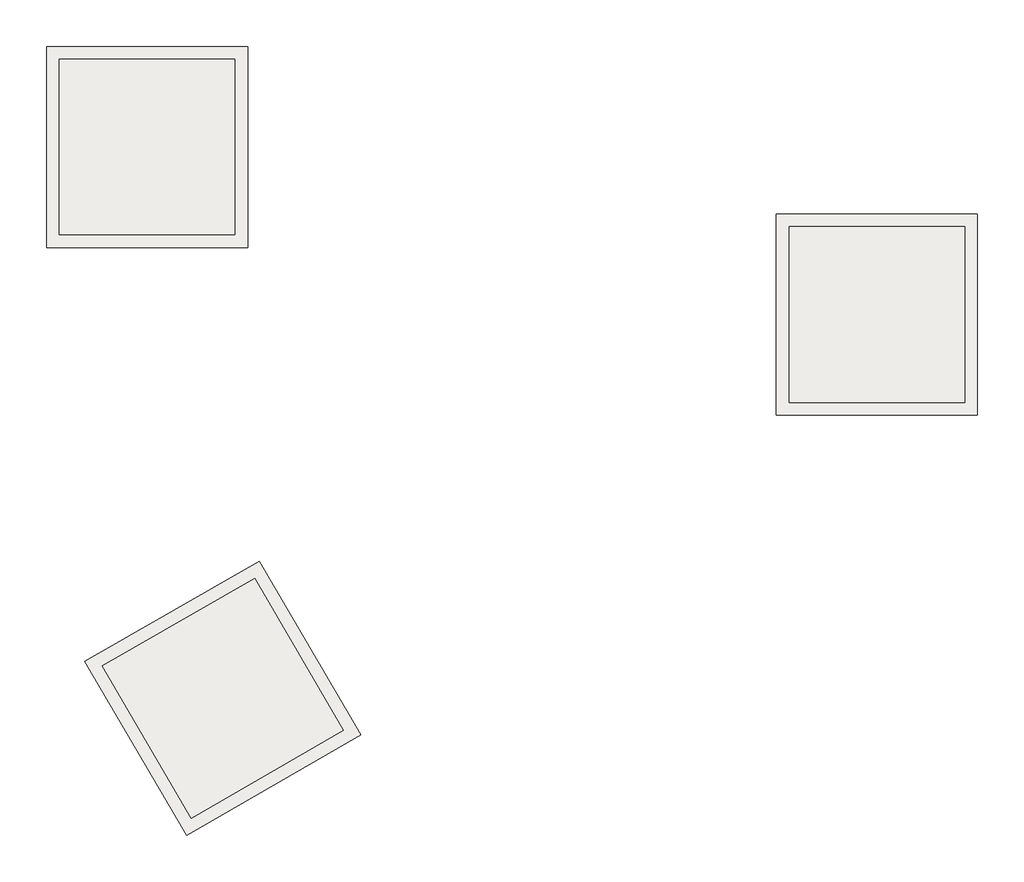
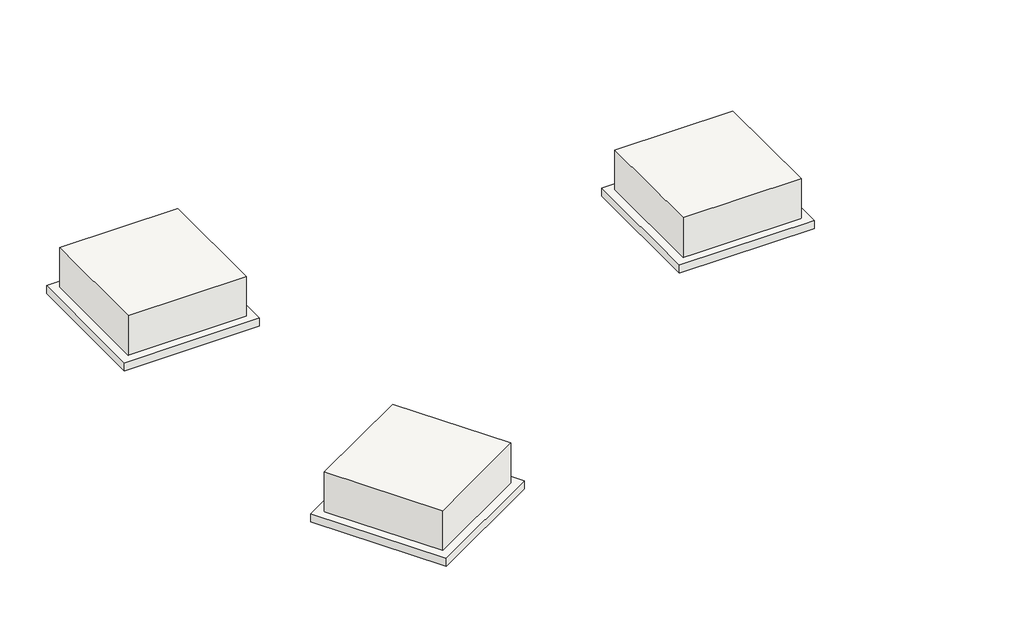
# One storey: 2 slabs.
"""IFC4 building model written with IfcOpenShell, lengths in millimetres."""

import ifcopenshell
import ifcopenshell.guid

model = None  # the IFC model being written
_history = None  # IfcOwnerHistory: only IFC2X3 demands one
_inside = {}  # id of a spatial element -> (the spatial element, [elements in it])
_under = {}  # id of a project, library or spatial element -> (it, [spatial elements below it])
_declared = {}  # id of a project -> (the project, [libraries it declares])
_typed = {}  # id of a type object -> (the type object, [elements of that type])
_made_of = {}  # id of a material, layer set ... -> (it, [elements and type objects made of it])


def new_model(schema):
    """Start an empty IFC model of exactly this schema.

    Asked for "IFC4X3", IfcOpenShell would pick the latest addendum, in which some entities
    have other attributes; the version numbers below select the first issue.
    IFC2X3 requires an IfcOwnerHistory on every rooted entity: one is made here for all.
    """
    global model, _history
    if schema == "IFC4X3":
        model = ifcopenshell.file(schema_version=(4, 3, 0, 0))
    else:
        model = ifcopenshell.file(schema=schema)
    _inside.clear()
    _under.clear()
    _declared.clear()
    _typed.clear()
    _made_of.clear()
    _history = None
    if model.schema == "IFC2X3":
        org = make("IfcOrganization", Name="unknown")
        user = make(
            "IfcPersonAndOrganization",
            ThePerson=make("IfcPerson", FamilyName="unknown"),
            TheOrganization=org,
        )
        app = make(
            "IfcApplication",
            ApplicationDeveloper=org,
            Version="unknown",
            ApplicationFullName="unknown",
            ApplicationIdentifier="unknown",
        )
        _history = make(
            "IfcOwnerHistory",
            OwningUser=user,
            OwningApplication=app,
            ChangeAction="ADDED",
            CreationDate=0,
        )
    return model


def make(cls, **values):
    """One entity of the class cls with the attributes given. An attribute that is None is left unset."""
    return model.create_entity(
        cls, **{name: value for name, value in values.items() if value is not None}
    )


def rooted(cls, **values):
    """An entity with a GlobalId (a new one), such as an element, a storey or a relation."""
    return make(cls, GlobalId=ifcopenshell.guid.new(), OwnerHistory=_history, **values)


def si_unit(unit_type, name, prefix=None):
    """IfcSIUnit, for example si_unit("LENGTHUNIT", "METRE", prefix="MILLI")."""
    return make("IfcSIUnit", UnitType=unit_type, Prefix=prefix, Name=name)


def assignment(units):
    """IfcUnitAssignment: the units of a project."""
    return None if units is None else make("IfcUnitAssignment", Units=units)


def point(xyz):
    """IfcCartesianPoint."""
    return None if xyz is None else make("IfcCartesianPoint", Coordinates=xyz)


def direction(xyz):
    """IfcDirection."""
    return None if xyz is None else make("IfcDirection", DirectionRatios=xyz)


def frame(location, z_axis=None, x_axis=None):
    """IfcAxis2Placement3D, a coordinate frame: its origin and axes. An axis left out is left unset."""
    return make(
        "IfcAxis2Placement3D",
        Location=point(location),
        Axis=direction(z_axis),
        RefDirection=direction(x_axis),
    )


def origin():
    """The frame at (0, 0, 0) with its axes left unset."""
    return frame((0.0, 0.0, 0.0))


def origin_with_axes():
    """The frame at (0, 0, 0) with the z axis (0, 0, 1) and the x axis (1, 0, 0) written out."""
    return frame((0.0, 0.0, 0.0), z_axis=(0.0, 0.0, 1.0), x_axis=(1.0, 0.0, 0.0))


def place(relative_to, where):
    """IfcLocalPlacement: puts the frame where relative to a parent placement (None: the world)."""
    return make(
        "IfcLocalPlacement", PlacementRelTo=relative_to, RelativePlacement=where
    )


def context(
    kind, dimensions, precision=None, world=None, true_north=None, identifier=None
):
    """IfcGeometricRepresentationContext, for example the 3D "Model" context."""
    return make(
        "IfcGeometricRepresentationContext",
        ContextIdentifier=identifier,
        ContextType=kind,
        CoordinateSpaceDimension=dimensions,
        Precision=precision,
        WorldCoordinateSystem=world,
        TrueNorth=true_north,
    )


def project(units=None, contexts=None):
    """IfcProject with its units and contexts."""
    return rooted(
        "IfcProject",
        Name="project",
        RepresentationContexts=contexts,
        UnitsInContext=assignment(units),
    )


def spatial(cls, under=None, at=None, **own):
    """A site, building, storey or space (cls), placed at a placement, below another one or the project."""
    s = rooted(cls, ObjectPlacement=at, **own)
    if under is not None:
        _under.setdefault(under.id(), (under, []))[1].append(s)
    return s


def polyline(points):
    """IfcPolyline through the points."""
    return make("IfcPolyline", Points=[point(p) for p in points])


def outline(outer, holes=None, kind="AREA"):
    """IfcArbitraryClosedProfileDef: a profile drawn as a closed curve; with holes, ...WithVoids."""
    if holes is None:
        return make("IfcArbitraryClosedProfileDef", ProfileType=kind, OuterCurve=outer)
    return make(
        "IfcArbitraryProfileDefWithVoids",
        ProfileType=kind,
        OuterCurve=outer,
        InnerCurves=holes,
    )


def extrude(swept, where, along, depth):
    """IfcExtrudedAreaSolid: the profile swept, set in the frame where, extruded along a direction by depth."""
    return make(
        "IfcExtrudedAreaSolid",
        SweptArea=swept,
        Position=where,
        ExtrudedDirection=direction(along),
        Depth=depth,
    )


def faces_of(points, faces, orient=None, outer=None):
    """IfcFace entities. A face is a list of loops; a loop is a list of indices into points, from 0.

    orient and outer hold one flag for each loop. By default every Orientation is true, the
    first loop of a face is its IfcFaceOuterBound and the others are IfcFaceBound.
    """
    made = []
    for i, loops in enumerate(faces):
        bounds = []
        for j, loop in enumerate(loops):
            is_outer = j == 0 if outer is None else outer[i][j]
            bounds.append(
                make(
                    "IfcFaceOuterBound" if is_outer else "IfcFaceBound",
                    Bound=make("IfcPolyLoop", Polygon=[points[k] for k in loop]),
                    Orientation=True if orient is None else orient[i][j],
                )
            )
        made.append(make("IfcFace", Bounds=bounds))
    return made


def faceted_brep(points, faces, orient=None, outer=None, voids=None):
    """IfcFacetedBrep: a solid bounded by flat faces; with voids (closed shells), ...WithVoids."""
    shared = [point(p) for p in points]
    hull = make("IfcClosedShell", CfsFaces=faces_of(shared, faces, orient, outer))
    if voids is None:
        return make("IfcFacetedBrep", Outer=hull)
    return make(
        "IfcFacetedBrepWithVoids",
        Outer=hull,
        Voids=[
            make(cls, CfsFaces=faces_of(shared, fs, o, b)) for cls, fs, o, b in voids
        ],
    )


def shape(context_of_items, identifier, shape_type, items):
    """IfcShapeRepresentation: the items that make up one representation, for example the "Body"."""
    return make(
        "IfcShapeRepresentation",
        ContextOfItems=context_of_items,
        RepresentationIdentifier=identifier,
        RepresentationType=shape_type,
        Items=items,
    )


def made_of(thing, what):
    """Note that an element or type object is made of a material, layer set ...; save() writes the relation."""
    if what is not None:
        _made_of.setdefault(what.id(), (what, []))[1].append(thing)
    return thing


def element(
    cls,
    number,
    at=None,
    inside=None,
    cuts=None,
    type_object=None,
    material=None,
    context=None,
    identifier="Body",
    shape_type=None,
    held_by="IfcProductDefinitionShape",
    body=None,
    shapes=None,
    **own,
):
    """One element of the class cls, such as IfcWall. Its Tag is "e" and its number.

    at: its placement. inside: the storey or other place that contains it. cuts: it is an
    opening in that element (IfcRelVoidsElement). A single representation is given by context,
    identifier, shape_type and body (its items); several are given by shapes. held_by: the class
    of the entity that holds the representations. save() writes the other relations.
    """
    e = rooted(cls, Tag="e%d" % number, ObjectPlacement=at, **own)
    if body is not None:
        shapes = [shape(context, identifier, shape_type, body)]
    if shapes is not None:
        e.Representation = make(held_by, Representations=shapes)
    if inside is not None:
        _inside.setdefault(inside.id(), (inside, []))[1].append(e)
    if cuts is not None:
        rooted(
            "IfcRelVoidsElement", RelatingBuildingElement=cuts, RelatedOpeningElement=e
        )
    if type_object is not None:
        _typed.setdefault(type_object.id(), (type_object, []))[1].append(e)
    return made_of(e, material)


def aggregate(whole, parts):
    """IfcRelAggregates: a whole, such as a stair, and the parts it consists of."""
    return rooted("IfcRelAggregates", RelatingObject=whole, RelatedObjects=parts)


def save(model, path):
    """Write the relations noted so far, then the file.

    IfcRelAggregates (storeys below a building ...), IfcRelContainedInSpatialStructure (elements
    in a storey), IfcRelDefinesByType, IfcRelAssociatesMaterial and IfcRelDeclares: one each for
    every whole, place, type object, material and project.
    """
    for whole, parts in _under.values():
        aggregate(whole, parts)
    for where, things in _inside.values():
        rooted(
            "IfcRelContainedInSpatialStructure",
            RelatedElements=things,
            RelatingStructure=where,
        )
    for kind, things in _typed.values():
        rooted("IfcRelDefinesByType", RelatedObjects=things, RelatingType=kind)
    for what, things in _made_of.values():
        rooted("IfcRelAssociatesMaterial", RelatedObjects=things, RelatingMaterial=what)
    for by, libraries in _declared.values():
        rooted("IfcRelDeclares", RelatingContext=by, RelatedDefinitions=libraries)
    model.write(path)


model = new_model("IFC4")

# Units and contexts
model_context = context("Model", 3, world=origin())
ifc_project = project(units=[si_unit("LENGTHUNIT", "METRE", prefix="MILLI")], contexts=[model_context])

# Site, building, storey
site = spatial("IfcSite", under=ifc_project)
building = spatial("IfcBuilding", under=site)
storey = spatial("IfcBuildingStorey", under=building, Name="КЖм.+0.600 (Верх ростверка 3)", Elevation=600.0)

# Slabs
placement = place(None, origin())
element("IfcSlab", 1, ObjectType="В25 500мм", at=placement, inside=storey, context=model_context, shape_type="Brep", body=[
    faceted_brep([(10501.5082767, 35589.1738817, 100.0), (9101.5082795, 35589.1738817, 100.0), (9101.5082795, 36989.173879, 100.0), (10501.5082767, 36989.173879, 100.0), (9501.5082795, 35989.1738817, 100.0), (9201.5082795, 35989.1738817, 100.0), (9201.5082795, 35689.1738817, 100.0), (9501.5082795, 35689.1738817, 100.0), (9951.5082795, 36889.1738817, 100.0), (9651.5082795, 36889.1738817, 100.0), (9651.5082795, 36589.1738817, 100.0), (9951.5082795, 36589.1738817, 100.0), (10401.5082802, 35989.173881, 100.0), (10101.5082802, 35989.173881, 100.0), (10101.5082802, 35689.173881, 100.0), (10401.5082802, 35689.173881, 100.0), (9101.5082795, 35589.1738817, 600.0), (10501.5082767, 35589.1738817, 600.0), (10501.5082767, 36989.173879, 600.0), (9101.5082795, 36989.173879, 600.0), (9201.5082795, 35989.1738817, 150.0), (9501.5082795, 35989.1738817, 150.0), (9501.5082795, 35689.1738817, 150.0), (9201.5082795, 35689.1738817, 150.0), (9651.5082795, 36889.1738817, 150.0), (9951.5082795, 36889.1738817, 150.0), (9951.5082795, 36589.1738817, 150.0), (9651.5082795, 36589.1738817, 150.0), (10101.5082802, 35989.173881, 150.0), (10401.5082802, 35989.173881, 150.0), (10401.5082802, 35689.173881, 150.0), (10101.5082802, 35689.173881, 150.0)], [[[0, 1, 2, 3], [4, 5, 6, 7], [8, 9, 10, 11], [12, 13, 14, 15]], [[16, 17, 18, 19]], [[1, 0, 17, 16]], [[2, 1, 16, 19]], [[3, 2, 19, 18]], [[0, 3, 18, 17]], [[20, 21, 22, 23]], [[21, 20, 5, 4]], [[20, 23, 6, 5]], [[23, 22, 7, 6]], [[22, 21, 4, 7]], [[24, 25, 26, 27]], [[25, 24, 9, 8]], [[24, 27, 10, 9]], [[27, 26, 11, 10]], [[26, 25, 8, 11]], [[28, 29, 30, 31]], [[29, 28, 13, 12]], [[28, 31, 14, 13]], [[31, 30, 15, 14]], [[30, 29, 12, 15]]]),
    faceted_brep([(14913.0512397, 35654.4353712, 100.0), (16313.0512369, 35654.4353712, 100.0), (16313.0512369, 34254.4353739, 100.0), (14913.0512397, 34254.4353739, 100.0), (15013.2047212, 35554.4353712, 100.0), (15013.2047212, 35254.4353712, 100.0), (15313.2047212, 35254.4353712, 100.0), (15313.2047212, 35554.4353712, 100.0), (15763.2047198, 34654.4353712, 100.0), (15463.2047198, 34654.4353712, 100.0), (15463.2047198, 34354.4353712, 100.0), (15763.2047198, 34354.4353712, 100.0), (15913.2047218, 35554.4353705, 100.0), (15913.2047218, 35254.4353705, 100.0), (16213.2047218, 35254.4353705, 100.0), (16213.2047218, 35554.4353705, 100.0), (16313.0512369, 35654.4353712, 600.0), (14913.0512397, 35654.4353712, 600.0), (14913.0512397, 34254.4353739, 600.0), (16313.0512369, 34254.4353739, 600.0), (15013.2047212, 35554.4353712, 150.0), (15313.2047212, 35554.4353712, 150.0), (15313.2047212, 35254.4353712, 150.0), (15013.2047212, 35254.4353712, 150.0), (15463.2047198, 34654.4353712, 150.0), (15763.2047198, 34654.4353712, 150.0), (15763.2047198, 34354.4353712, 150.0), (15463.2047198, 34354.4353712, 150.0), (15913.2047218, 35554.4353705, 150.0), (16213.2047218, 35554.4353705, 150.0), (16213.2047218, 35254.4353705, 150.0), (15913.2047218, 35254.4353705, 150.0)], [[[0, 1, 2, 3], [4, 5, 6, 7], [8, 9, 10, 11], [12, 13, 14, 15]], [[16, 17, 18, 19]], [[1, 0, 17, 16]], [[2, 1, 16, 19]], [[3, 2, 19, 18]], [[0, 3, 18, 17]], [[20, 21, 22, 23]], [[21, 20, 4, 7]], [[20, 23, 5, 4]], [[23, 22, 6, 5]], [[22, 21, 7, 6]], [[24, 25, 26, 27]], [[25, 24, 9, 8]], [[24, 27, 10, 9]], [[27, 26, 11, 10]], [[26, 25, 8, 11]], [[28, 29, 30, 31]], [[29, 28, 12, 15]], [[28, 31, 13, 12]], [[31, 30, 14, 13]], [[30, 29, 15, 14]]]),
    faceted_brep([(10657.975409, 32850.2867454, 100.0), (11364.1953602, 31641.8499424, 100.0), (10152.0817553, 30941.3167228, 100.0), (9443.5953163, 32153.6784262, 100.0), (9836.4938099, 32265.0328931, 100.0), (9576.6861888, 32115.0328931, 100.0), (9726.6861888, 31855.225272, 100.0), (9986.4938099, 32005.225272, 100.0), (10615.8786497, 32715.0987455, 100.0), (10356.0710286, 32565.0987455, 100.0), (10506.0710286, 32305.2911243, 100.0), (10765.8786497, 32455.2911243, 100.0), (10683.9271701, 31710.5752059, 100.0), (10424.119549, 31560.5752059, 100.0), (10574.119549, 31300.7675847, 100.0), (10833.9271701, 31450.7675847, 100.0), (11364.1953602, 31641.8499424, 600.0), (10657.975409, 32850.2867454, 600.0), (9443.5953163, 32153.6784262, 600.0), (10152.0817553, 30941.3167228, 600.0), (9576.6861888, 32115.0328931, 150.0), (9836.4938099, 32265.0328931, 150.0), (9986.4938099, 32005.225272, 150.0), (9726.6861888, 31855.225272, 150.0), (10356.0710286, 32565.0987455, 150.0), (10615.8786497, 32715.0987455, 150.0), (10765.8786497, 32455.2911243, 150.0), (10506.0710286, 32305.2911243, 150.0), (10424.119549, 31560.5752059, 150.0), (10683.9271701, 31710.5752059, 150.0), (10833.9271701, 31450.7675847, 150.0), (10574.119549, 31300.7675847, 150.0)], [[[0, 1, 2, 3], [4, 5, 6, 7], [8, 9, 10, 11], [12, 13, 14, 15]], [[16, 17, 18, 19]], [[1, 0, 17, 16]], [[2, 1, 16, 19]], [[3, 2, 19, 18]], [[0, 3, 18, 17]], [[20, 21, 22, 23]], [[21, 20, 5, 4]], [[20, 23, 6, 5]], [[23, 22, 7, 6]], [[22, 21, 4, 7]], [[24, 25, 26, 27]], [[25, 24, 9, 8]], [[24, 27, 10, 9]], [[27, 26, 11, 10]], [[26, 25, 8, 11]], [[28, 29, 30, 31]], [[29, 28, 13, 12]], [[28, 31, 14, 13]], [[31, 30, 15, 14]], [[30, 29, 12, 15]]]),
])
element("IfcSlab", 2, ObjectType="Подготовка 100мм", at=placement, inside=storey, context=model_context, shape_type="SweptSolid", body=[
    extrude(outline(polyline([(10601.5082767, 35489.1738817), (9001.5082795, 35489.1738817), (9001.5082795, 37089.173879), (10601.5082767, 37089.173879), (10601.5082767, 35489.1738817)]), holes=[polyline([(9501.5082795, 35989.1738817), (9201.5082795, 35989.1738817), (9201.5082795, 35689.1738817), (9501.5082795, 35689.1738817), (9501.5082795, 35989.1738817)]), polyline([(9951.5082795, 36889.1738817), (9651.5082795, 36889.1738817), (9651.5082795, 36589.1738817), (9951.5082795, 36589.1738817), (9951.5082795, 36889.1738817)]), polyline([(10401.5082802, 35989.173881), (10101.5082802, 35989.173881), (10101.5082802, 35689.173881), (10401.5082802, 35689.173881), (10401.5082802, 35989.173881)])]), origin_with_axes(), (0.0, 0.0, 1.0), 100.0),
    extrude(outline(polyline([(14813.0512397, 35754.4353712), (16413.0512369, 35754.4353712), (16413.0512369, 34154.4353739), (14813.0512397, 34154.4353739), (14813.0512397, 35754.4353712)]), holes=[polyline([(15313.2047212, 35554.4353712), (15013.2047212, 35554.4353712), (15013.2047212, 35254.4353712), (15313.2047212, 35254.4353712), (15313.2047212, 35554.4353712)]), polyline([(15763.2047198, 34654.4353712), (15463.2047198, 34654.4353712), (15463.2047198, 34354.4353712), (15763.2047198, 34354.4353712), (15763.2047198, 34654.4353712)]), polyline([(16213.2047218, 35554.4353705), (15913.2047218, 35554.4353705), (15913.2047218, 35254.4353705), (16213.2047218, 35254.4353705), (16213.2047218, 35554.4353705)])]), origin_with_axes(), (0.0, 0.0, 1.0), 100.0),
    extrude(outline(polyline([(10694.2621164, 32986.3866256), (11501.2335542, 31605.550552), (10115.9559035, 30804.9382919), (9306.3941806, 32190.2599797), (10694.2621164, 32986.3866256)]), holes=[polyline([(9836.4938099, 32265.0328931), (9576.6861888, 32115.0328931), (9726.6861888, 31855.225272), (9986.4938099, 32005.225272), (9836.4938099, 32265.0328931)]), polyline([(10615.8786497, 32715.0987455), (10356.0710286, 32565.0987455), (10506.0710286, 32305.2911243), (10765.8786497, 32455.2911243), (10615.8786497, 32715.0987455)]), polyline([(10683.9271701, 31710.5752059), (10424.119549, 31560.5752059), (10574.119549, 31300.7675847), (10833.9271701, 31450.7675847), (10683.9271701, 31710.5752059)])]), origin_with_axes(), (0.0, 0.0, 1.0), 100.0),
])

save(model, "model.ifc")
